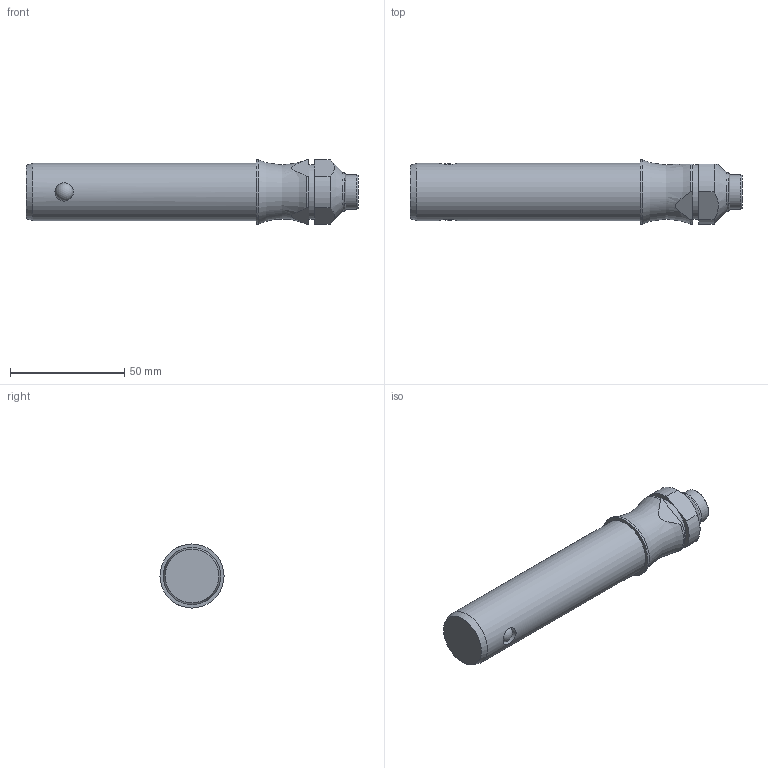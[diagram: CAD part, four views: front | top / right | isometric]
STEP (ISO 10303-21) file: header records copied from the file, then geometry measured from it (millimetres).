
FILE_DESCRIPTION( ( 'STEP AP203' ), '1' );
FILE_NAME( 'C:/Temp/Ganter_Step_05_03_2020/data/3_1/gn113_3/Stainless Steel-Ball lock pin GN 113.3-25-80 (activated).stp', '2020-03-12T08:19:10', ( 'License CC BY-ND 4.0' ), ( 'CADENAS' ), ' ', 'PARTsolutions', ' ' );
FILE_SCHEMA( ( 'CONFIG_CONTROL_DESIGN' ) );
Length unit declared in the file: millimetre
Products named in the file (1): _Stainless Steel-Ball lock pin GN 113.3-25-80 (activated)
Bounding box: 145.05 x 28 x 28 mm (x, y, z)
Volume: 68934.8 mm3; surface area: 12637.2 mm2
Topology: 1 solids, 1 shells, 31 faces, 74 edges, 46 vertices
Faces by surface type: cylinder 13, plane 11, cone 4, sphere 2, torus 1
Full cylindrical faces by diameter (mm): 8 x2, 15 x1, 17 x1, 24 x1, 25 x1, 28 x1
Entity records: 1046 total; most frequent: CARTESIAN_POINT 382, DIRECTION 134, ORIENTED_EDGE 104, AXIS2_PLACEMENT_3D 58, EDGE_CURVE 52, EDGE_LOOP 48, VERTEX_POINT 40, FACE_OUTER_BOUND 39
